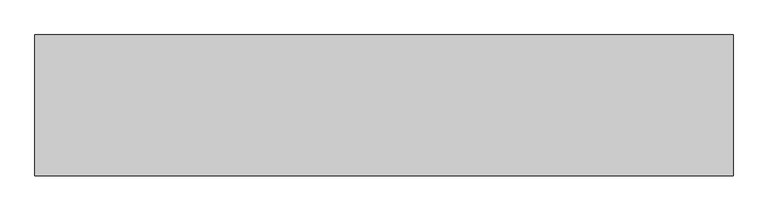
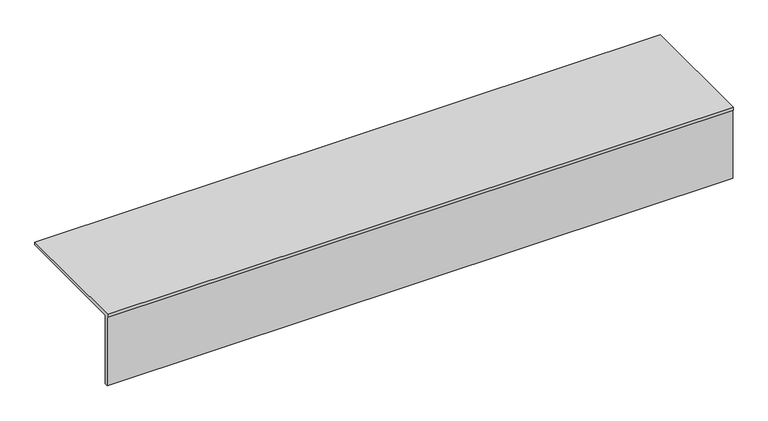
"""IFC4 building model written with IfcOpenShell, lengths in millimetres: furniture geometry, Vanity-Compact Laminate-Duracube-Inset Basin 520 : No Basins no Splashback."""

import ifcopenshell
import ifcopenshell.guid

model = None  # the IFC model being written
_history = None  # IfcOwnerHistory: only IFC2X3 demands one
_inside = {}  # id of a spatial element -> (the spatial element, [elements in it])
_under = {}  # id of a project, library or spatial element -> (it, [spatial elements below it])
_declared = {}  # id of a project -> (the project, [libraries it declares])
_typed = {}  # id of a type object -> (the type object, [elements of that type])
_made_of = {}  # id of a material, layer set ... -> (it, [elements and type objects made of it])


def new_model(schema):
    """Start an empty IFC model of exactly this schema.

    Asked for "IFC4X3", IfcOpenShell would pick the latest addendum, in which some entities
    have other attributes; the version numbers below select the first issue.
    IFC2X3 requires an IfcOwnerHistory on every rooted entity: one is made here for all.
    """
    global model, _history
    if schema == "IFC4X3":
        model = ifcopenshell.file(schema_version=(4, 3, 0, 0))
    else:
        model = ifcopenshell.file(schema=schema)
    _inside.clear()
    _under.clear()
    _declared.clear()
    _typed.clear()
    _made_of.clear()
    _history = None
    if model.schema == "IFC2X3":
        org = make("IfcOrganization", Name="unknown")
        user = make(
            "IfcPersonAndOrganization",
            ThePerson=make("IfcPerson", FamilyName="unknown"),
            TheOrganization=org,
        )
        app = make(
            "IfcApplication",
            ApplicationDeveloper=org,
            Version="unknown",
            ApplicationFullName="unknown",
            ApplicationIdentifier="unknown",
        )
        _history = make(
            "IfcOwnerHistory",
            OwningUser=user,
            OwningApplication=app,
            ChangeAction="ADDED",
            CreationDate=0,
        )
    return model


def make(cls, **values):
    """One entity of the class cls with the attributes given. An attribute that is None is left unset."""
    return model.create_entity(
        cls, **{name: value for name, value in values.items() if value is not None}
    )


def rooted(cls, **values):
    """An entity with a GlobalId (a new one), such as an element, a storey or a relation."""
    return make(cls, GlobalId=ifcopenshell.guid.new(), OwnerHistory=_history, **values)


def si_unit(unit_type, name, prefix=None):
    """IfcSIUnit, for example si_unit("LENGTHUNIT", "METRE", prefix="MILLI")."""
    return make("IfcSIUnit", UnitType=unit_type, Prefix=prefix, Name=name)


def assignment(units):
    """IfcUnitAssignment: the units of a project."""
    return None if units is None else make("IfcUnitAssignment", Units=units)


def point(xyz):
    """IfcCartesianPoint."""
    return None if xyz is None else make("IfcCartesianPoint", Coordinates=xyz)


def direction(xyz):
    """IfcDirection."""
    return None if xyz is None else make("IfcDirection", DirectionRatios=xyz)


def frame(location, z_axis=None, x_axis=None):
    """IfcAxis2Placement3D, a coordinate frame: its origin and axes. An axis left out is left unset."""
    return make(
        "IfcAxis2Placement3D",
        Location=point(location),
        Axis=direction(z_axis),
        RefDirection=direction(x_axis),
    )


def origin():
    """The frame at (0, 0, 0) with its axes left unset."""
    return frame((0.0, 0.0, 0.0))


def place(relative_to, where):
    """IfcLocalPlacement: puts the frame where relative to a parent placement (None: the world)."""
    return make(
        "IfcLocalPlacement", PlacementRelTo=relative_to, RelativePlacement=where
    )


def context(
    kind, dimensions, precision=None, world=None, true_north=None, identifier=None
):
    """IfcGeometricRepresentationContext, for example the 3D "Model" context."""
    return make(
        "IfcGeometricRepresentationContext",
        ContextIdentifier=identifier,
        ContextType=kind,
        CoordinateSpaceDimension=dimensions,
        Precision=precision,
        WorldCoordinateSystem=world,
        TrueNorth=true_north,
    )


def project(units=None, contexts=None):
    """IfcProject with its units and contexts."""
    return rooted(
        "IfcProject",
        Name="project",
        RepresentationContexts=contexts,
        UnitsInContext=assignment(units),
    )


def spatial(cls, under=None, at=None, **own):
    """A site, building, storey or space (cls), placed at a placement, below another one or the project."""
    s = rooted(cls, ObjectPlacement=at, **own)
    if under is not None:
        _under.setdefault(under.id(), (under, []))[1].append(s)
    return s


def polyline(points):
    """IfcPolyline through the points."""
    return make("IfcPolyline", Points=[point(p) for p in points])


def outline(outer, holes=None, kind="AREA"):
    """IfcArbitraryClosedProfileDef: a profile drawn as a closed curve; with holes, ...WithVoids."""
    if holes is None:
        return make("IfcArbitraryClosedProfileDef", ProfileType=kind, OuterCurve=outer)
    return make(
        "IfcArbitraryProfileDefWithVoids",
        ProfileType=kind,
        OuterCurve=outer,
        InnerCurves=holes,
    )


def extrude(swept, where, along, depth):
    """IfcExtrudedAreaSolid: the profile swept, set in the frame where, extruded along a direction by depth."""
    return make(
        "IfcExtrudedAreaSolid",
        SweptArea=swept,
        Position=where,
        ExtrudedDirection=direction(along),
        Depth=depth,
    )


def shape(context_of_items, identifier, shape_type, items):
    """IfcShapeRepresentation: the items that make up one representation, for example the "Body"."""
    return make(
        "IfcShapeRepresentation",
        ContextOfItems=context_of_items,
        RepresentationIdentifier=identifier,
        RepresentationType=shape_type,
        Items=items,
    )


def source(mapping_origin, context_of_items, identifier, shape_type, items):
    """IfcRepresentationMap: a shape defined once, which mapped items show again and again."""
    return make(
        "IfcRepresentationMap",
        MappingOrigin=mapping_origin,
        MappedRepresentation=shape(context_of_items, identifier, shape_type, items),
    )


def transform(
    local_origin,
    x_axis=None,
    y_axis=None,
    z_axis=None,
    scale=None,
    scale2=None,
    scale3=None,
    uniform=True,
):
    """IfcCartesianTransformationOperator3D, or its non-uniform kind. x_axis, y_axis, z_axis: its Axis1, 2, 3."""
    if uniform:
        return make(
            "IfcCartesianTransformationOperator3D",
            Axis1=direction(x_axis),
            Axis2=direction(y_axis),
            LocalOrigin=point(local_origin),
            Scale=scale,
            Axis3=direction(z_axis),
        )
    return make(
        "IfcCartesianTransformationOperator3DnonUniform",
        Axis1=direction(x_axis),
        Axis2=direction(y_axis),
        LocalOrigin=point(local_origin),
        Scale=scale,
        Axis3=direction(z_axis),
        Scale2=scale2,
        Scale3=scale3,
    )


def mapped(mapping_source, mapping_target):
    """IfcMappedItem: shows the shape of a source again, moved by a transform."""
    return make(
        "IfcMappedItem", MappingSource=mapping_source, MappingTarget=mapping_target
    )


def made_of(thing, what):
    """Note that an element or type object is made of a material, layer set ...; save() writes the relation."""
    if what is not None:
        _made_of.setdefault(what.id(), (what, []))[1].append(thing)
    return thing


def element(
    cls,
    number,
    at=None,
    inside=None,
    cuts=None,
    type_object=None,
    material=None,
    context=None,
    identifier="Body",
    shape_type=None,
    held_by="IfcProductDefinitionShape",
    body=None,
    shapes=None,
    **own,
):
    """One element of the class cls, such as IfcWall. Its Tag is "e" and its number.

    at: its placement. inside: the storey or other place that contains it. cuts: it is an
    opening in that element (IfcRelVoidsElement). A single representation is given by context,
    identifier, shape_type and body (its items); several are given by shapes. held_by: the class
    of the entity that holds the representations. save() writes the other relations.
    """
    e = rooted(cls, Tag="e%d" % number, ObjectPlacement=at, **own)
    if body is not None:
        shapes = [shape(context, identifier, shape_type, body)]
    if shapes is not None:
        e.Representation = make(held_by, Representations=shapes)
    if inside is not None:
        _inside.setdefault(inside.id(), (inside, []))[1].append(e)
    if cuts is not None:
        rooted(
            "IfcRelVoidsElement", RelatingBuildingElement=cuts, RelatedOpeningElement=e
        )
    if type_object is not None:
        _typed.setdefault(type_object.id(), (type_object, []))[1].append(e)
    return made_of(e, material)


def aggregate(whole, parts):
    """IfcRelAggregates: a whole, such as a stair, and the parts it consists of."""
    return rooted("IfcRelAggregates", RelatingObject=whole, RelatedObjects=parts)


def save(model, path):
    """Write the relations noted so far, then the file.

    IfcRelAggregates (storeys below a building ...), IfcRelContainedInSpatialStructure (elements
    in a storey), IfcRelDefinesByType, IfcRelAssociatesMaterial and IfcRelDeclares: one each for
    every whole, place, type object, material and project.
    """
    for whole, parts in _under.values():
        aggregate(whole, parts)
    for where, things in _inside.values():
        rooted(
            "IfcRelContainedInSpatialStructure",
            RelatedElements=things,
            RelatingStructure=where,
        )
    for kind, things in _typed.values():
        rooted("IfcRelDefinesByType", RelatedObjects=things, RelatingType=kind)
    for what, things in _made_of.values():
        rooted("IfcRelAssociatesMaterial", RelatedObjects=things, RelatingMaterial=what)
    for by, libraries in _declared.values():
        rooted("IfcRelDeclares", RelatingContext=by, RelatedDefinitions=libraries)
    model.write(path)


def furniture_3112df1e(model_context):
    return source(origin(), model_context, "Body", "SweptSolid", [
        extrude(outline(polyline([(-520.0, 850.0), (0.0, 850.0), (0.0, 837.0), (-503.5, 837.0), (-503.5, 537.0), (-516.5, 537.0), (-516.5, 837.0), (-520.0, 837.0), (-520.0, 850.0)])), frame((0.0, 0.0, 0.0), z_axis=(1.0, 0.0, 0.0), x_axis=(0.0, 1.0, 0.0)), (0.0, 0.0, 1.0), 2580.0),
    ])


if __name__ == "__main__":
    model = new_model("IFC4")
    model_context = context("Model", 3, world=origin())
    ifc_project = project(units=[si_unit("LENGTHUNIT", "METRE", prefix="MILLI")], contexts=[model_context])
    site = spatial("IfcSite", under=ifc_project)
    building = spatial("IfcBuilding", under=site)
    placement = place(None, origin())
    furniture_shape = furniture_3112df1e(model_context)
    element("IfcFurniture", 1, ObjectType="Vanity-Compact Laminate-Duracube-Inset Basin 520 : No Basins no Splashback", at=placement, inside=building, context=model_context, shape_type="MappedRepresentation", body=[
        mapped(furniture_shape, transform((0.0, 0.0, 0.0), x_axis=(1.0, 0.0, 0.0), y_axis=(0.0, 1.0, 0.0), z_axis=(0.0, 0.0, 1.0))),
    ])
    save(model, "model.ifc")
